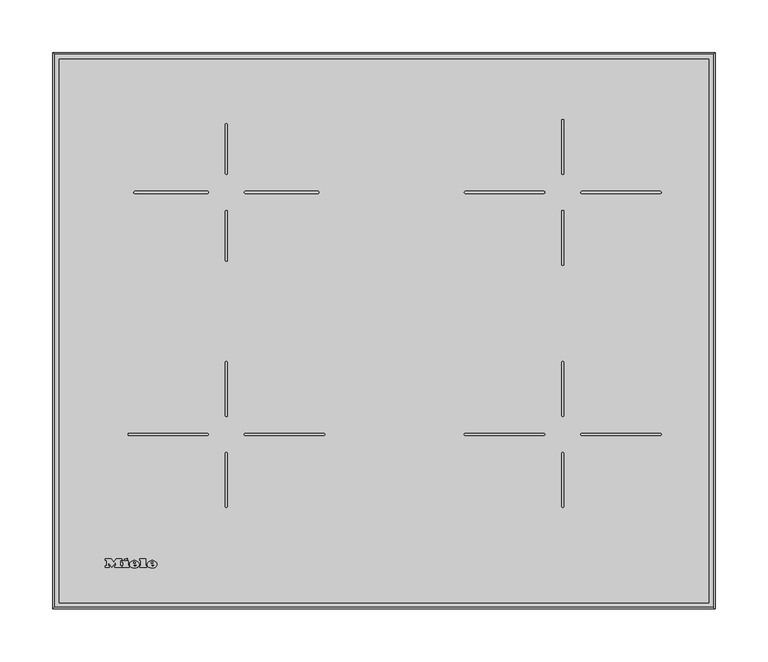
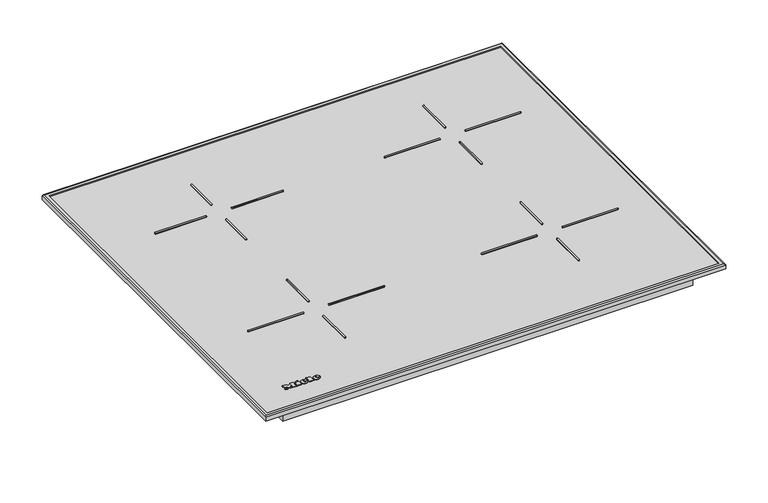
"""IFC4 building model written with IfcOpenShell, lengths in millimetres: proxy geometry, 12337590_D_KM7061FR : 26706110_D_12337590_KM7061FR."""

from ifc_helpers import new_model, si_unit, point, frame, frame_2d, origin, origin_with_axes, place, context, project, spatial, polyline, circle_curve, ellipse_curve, trimmed, segment, composite_curve, outline, extrude, source, transform, mapped, element, save
from ifc_brep_helpers import plane_surface, cylinder_surface, revolved_surface, extruded_surface, advanced_brep


def specialty_equipment_a7064428(model_context):
    return source(origin(), model_context, "Body", "SolidModel", [
        advanced_brep(
        [(-219.911984, 41.066, 5.0000007), (-219.911984, 41.874, 5.0000007), (-214.559984, 41.874, 5.0000007), (-223.871984, 41.874, 5.0000007), (-221.671984, 39.17, 5.0000007), (-214.695984, 41.066, 5.0000007), (-217.111984, 41.066, 5.0000007), (-219.015984, 40.17, 5.0000007), (-219.911984, 42.898, 5.0000007), (-219.911984, 43.77, 5.0000007), (-218.543984, 43.77, 5.0000007), (-218.543984, 42.898, 5.0000007), (-219.911984, 41.066, 4.0000007), (-219.015984, 40.17, 4.0000007), (-217.111984, 41.066, 4.0000007), (-214.695984, 41.066, 4.0000007), (-221.671984, 39.17, 4.0000007), (-223.871984, 41.874, 4.0000007), (-214.559984, 41.874, 4.0000007), (-219.911984, 41.874, 4.0000007), (-219.911984, 42.898, 4.0000007), (-218.543984, 42.898, 4.0000007), (-218.543984, 43.77, 4.0000007), (-219.911984, 43.77, 4.0000007)],
        [
            (0, 1),
            (1, 2),
            (2, 3, ellipse_curve(frame((-219.215984, 41.874, 5.0000007), z_axis=(0.0, 0.0, 1.0), x_axis=(-1.0, 0.0, 0.0)), 4.656, 3.848)),
            (3, 4, circle_curve(frame((-220.7759404, 42.146, 5.0000007), z_axis=(0.0, 0.0, 1.0), x_axis=(0.0, -1.0, 0.0)), 3.1079688)),
            (4, 5, circle_curve(frame((-219.3091904, 44.258, 5.0000007), z_axis=(0.0, 0.0, 1.0), x_axis=(0.0, -1.0, 0.0)), 5.6098607)),
            (5, 6),
            (6, 7, circle_curve(frame((-218.6249252, 41.81, 5.0000007), z_axis=(0.0, 0.0, -1.0), x_axis=(0.0, -1.0, 0.0)), 1.6859795)),
            (7, 0, circle_curve(frame((-219.015984, 41.066, 5.0000007), z_axis=(0.0, 0.0, -1.0), x_axis=(0.0, -1.0, 0.0)), 0.896)),
            (8, 9),
            (9, 10, circle_curve(frame((-219.227984, 43.77, 5.0000007), z_axis=(0.0, 0.0, -1.0), x_axis=(0.0, -1.0, 0.0)), 0.684)),
            (10, 11),
            (11, 8),
            (12, 13, circle_curve(frame((-219.015984, 41.066, 4.0000007), z_axis=(0.0, 0.0, 1.0), x_axis=(0.0, -1.0, 0.0)), 0.896)),
            (13, 14, circle_curve(frame((-218.6249252, 41.81, 4.0000007), z_axis=(0.0, 0.0, 1.0), x_axis=(0.0, -1.0, 0.0)), 1.6859795)),
            (14, 15),
            (15, 16, circle_curve(frame((-219.3091904, 44.258, 4.0000007), z_axis=(0.0, 0.0, -1.0), x_axis=(0.0, -1.0, 0.0)), 5.6098607)),
            (16, 17, circle_curve(frame((-220.7759404, 42.146, 4.0000007), z_axis=(0.0, 0.0, -1.0), x_axis=(0.0, -1.0, 0.0)), 3.1079688)),
            (17, 18, ellipse_curve(frame((-219.215984, 41.874, 4.0000007), z_axis=(0.0, 0.0, -1.0), x_axis=(-1.0, 0.0, 0.0)), 4.656, 3.848)),
            (18, 19),
            (19, 12),
            (20, 21),
            (21, 22),
            (22, 23, circle_curve(frame((-219.227984, 43.77, 4.0000007), z_axis=(0.0, 0.0, 1.0), x_axis=(0.0, -1.0, 0.0)), 0.684)),
            (23, 20),
            (0, 12),
            (19, 1),
            (18, 2),
            (5, 15),
            (14, 6),
            (17, 3),
            (13, 7),
            (16, 4),
            (8, 20),
            (23, 9),
            (22, 10),
            (21, 11),
        ],
        [
            plane_surface(frame((-219.911984, 41.874, 5.0000007), z_axis=(0.0, 0.0, 1.0), x_axis=(0.0, 1.0, 0.0))),
            plane_surface(frame((-219.911984, 41.874, 4.0000007), z_axis=(0.0, 0.0, -1.0), x_axis=(0.0, -1.0, 0.0))),
            plane_surface(frame((-219.911984, 41.066, 5.0000007), z_axis=(1.0, 0.0, 0.0), x_axis=(0.0, 0.0, -1.0))),
            plane_surface(frame((-219.911984, 41.874, 5.0000007), z_axis=(0.0, -1.0, 0.0), x_axis=(0.0, 0.0, -1.0))),
            plane_surface(frame((-214.695984, 41.066, 5.0000007), z_axis=(0.0, 1.0, 0.0), x_axis=(0.0, 0.0, -1.0))),
            extruded_surface(trimmed(ellipse_curve(frame((-219.215984, 41.874, 3.0000007), z_axis=(0.0, 0.0, 1.0), x_axis=(-1.0, 0.0, 0.0)), 4.656, 3.848), [point((-214.559984, 41.874, 3.0000007))], [point((-223.871984, 41.874, 3.0000007))], True, "CARTESIAN"), (0.0, 0.0, 1.0), 1.0),
            revolved_surface(polyline([(-218.6249252, 40.1240205, 4.0000007), (-218.6249252, 40.1240205, 5.0000007)]), (-218.6249252, 41.81, 4.0000007), (0.0, 0.0, -1.0)),
            revolved_surface(polyline([(-219.015984, 40.17, 4.0000007), (-219.015984, 40.17, 5.0000007)]), (-219.015984, 41.066, 4.0000007), (0.0, 0.0, -1.0)),
            cylinder_surface(frame((-220.7759404, 42.146, 4.0000007), z_axis=(0.0, 0.0, 1.0), x_axis=(0.0, -1.0, 0.0)), 3.1079688),
            cylinder_surface(frame((-219.3091904, 44.258, 4.0000007), z_axis=(0.0, 0.0, 1.0), x_axis=(0.0, -1.0, 0.0)), 5.6098607),
            plane_surface(frame((-219.911984, 42.898, 5.0000007), z_axis=(1.0, 0.0, 0.0), x_axis=(0.0, 0.0, -1.0))),
            revolved_surface(polyline([(-219.227984, 43.086000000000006, 4.0000007), (-219.227984, 43.086000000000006, 5.0000007)]), (-219.227984, 43.77, 4.0000007), (0.0, 0.0, -1.0)),
            plane_surface(frame((-218.543984, 43.77, 5.0000007), z_axis=(-1.0, 0.0, 0.0), x_axis=(0.0, 0.0, -1.0))),
            plane_surface(frame((-218.543984, 42.898, 5.0000007), z_axis=(0.0, 1.0, 0.0), x_axis=(0.0, 0.0, -1.0))),
        ],
        [
            (0, [[1, 2, 3, 4, 5, 6, 7, 8], [9, 10, 11, 12]]),
            (1, [[13, 14, 15, 16, 17, 18, 19, 20], [21, 22, 23, 24]]),
            (2, [[-1, 25, -20, 26]]),
            (3, [[-2, -26, -19, 27]]),
            (4, [[-6, 28, -15, 29]]),
            (5, [[-3, -27, -18, 30]]),
            (6, [[-7, -29, -14, 31]]),
            (7, [[-8, -31, -13, -25]]),
            (8, [[-4, -30, -17, 32]]),
            (9, [[-5, -32, -16, -28]]),
            (10, [[-9, 33, -24, 34]]),
            (11, [[-10, -34, -23, 35]]),
            (12, [[-11, -35, -22, 36]]),
            (13, [[-12, -36, -21, -33]]),
        ],
    ),
        advanced_brep(
        [(-236.607984, 41.066, 5.0000007), (-236.607984, 41.874, 5.0000007), (-231.255984, 41.874, 5.0000007), (-240.567984, 41.874, 5.0000007), (-238.367984, 39.17, 5.0000007), (-231.391984, 41.066, 5.0000007), (-233.807984, 41.066, 5.0000007), (-235.711984, 40.17, 5.0000007), (-236.607984, 42.898, 5.0000007), (-236.607984, 43.77, 5.0000007), (-235.239984, 43.77, 5.0000007), (-235.239984, 42.898, 5.0000007), (-236.607984, 41.066, 4.0000007), (-235.711984, 40.17, 4.0000007), (-233.807984, 41.066, 4.0000007), (-231.391984, 41.066, 4.0000007), (-238.367984, 39.17, 4.0000007), (-240.567984, 41.874, 4.0000007), (-231.255984, 41.874, 4.0000007), (-236.607984, 41.874, 4.0000007), (-236.607984, 42.898, 4.0000007), (-235.239984, 42.898, 4.0000007), (-235.239984, 43.77, 4.0000007), (-236.607984, 43.77, 4.0000007)],
        [
            (0, 1),
            (1, 2),
            (2, 3, ellipse_curve(frame((-235.911984, 41.874, 5.0000007), z_axis=(0.0, 0.0, 1.0), x_axis=(-1.0, 0.0, 0.0)), 4.656, 3.848)),
            (3, 4, circle_curve(frame((-237.4719404, 42.146, 5.0000007), z_axis=(0.0, 0.0, 1.0), x_axis=(0.0, -1.0, 0.0)), 3.1079688)),
            (4, 5, circle_curve(frame((-236.0051904, 44.258, 5.0000007), z_axis=(0.0, 0.0, 1.0), x_axis=(0.0, -1.0, 0.0)), 5.6098607)),
            (5, 6),
            (6, 7, circle_curve(frame((-235.3209252, 41.81, 5.0000007), z_axis=(0.0, 0.0, -1.0), x_axis=(0.0, -1.0, 0.0)), 1.6859795)),
            (7, 0, circle_curve(frame((-235.711984, 41.066, 5.0000007), z_axis=(0.0, 0.0, -1.0), x_axis=(0.0, -1.0, 0.0)), 0.896)),
            (8, 9),
            (9, 10, circle_curve(frame((-235.923984, 43.77, 5.0000007), z_axis=(0.0, 0.0, -1.0), x_axis=(0.0, -1.0, 0.0)), 0.684)),
            (10, 11),
            (11, 8),
            (12, 13, circle_curve(frame((-235.711984, 41.066, 4.0000007), z_axis=(0.0, 0.0, 1.0), x_axis=(0.0, -1.0, 0.0)), 0.896)),
            (13, 14, circle_curve(frame((-235.3209252, 41.81, 4.0000007), z_axis=(0.0, 0.0, 1.0), x_axis=(0.0, -1.0, 0.0)), 1.6859795)),
            (14, 15),
            (15, 16, circle_curve(frame((-236.0051904, 44.258, 4.0000007), z_axis=(0.0, 0.0, -1.0), x_axis=(0.0, -1.0, 0.0)), 5.6098607)),
            (16, 17, circle_curve(frame((-237.4719404, 42.146, 4.0000007), z_axis=(0.0, 0.0, -1.0), x_axis=(0.0, -1.0, 0.0)), 3.1079688)),
            (17, 18, ellipse_curve(frame((-235.911984, 41.874, 4.0000007), z_axis=(0.0, 0.0, -1.0), x_axis=(-1.0, 0.0, 0.0)), 4.656, 3.848)),
            (18, 19),
            (19, 12),
            (20, 21),
            (21, 22),
            (22, 23, circle_curve(frame((-235.923984, 43.77, 4.0000007), z_axis=(0.0, 0.0, 1.0), x_axis=(0.0, -1.0, 0.0)), 0.684)),
            (23, 20),
            (0, 12),
            (19, 1),
            (18, 2),
            (5, 15),
            (14, 6),
            (17, 3),
            (13, 7),
            (16, 4),
            (8, 20),
            (23, 9),
            (22, 10),
            (21, 11),
        ],
        [
            plane_surface(frame((-236.607984, 41.874, 5.0000007), z_axis=(0.0, 0.0, 1.0), x_axis=(0.0, 1.0, 0.0))),
            plane_surface(frame((-236.607984, 41.874, 4.0000007), z_axis=(0.0, 0.0, -1.0), x_axis=(0.0, -1.0, 0.0))),
            plane_surface(frame((-236.607984, 41.066, 5.0000007), z_axis=(1.0, 0.0, 0.0), x_axis=(0.0, 0.0, -1.0))),
            plane_surface(frame((-236.607984, 41.874, 5.0000007), z_axis=(0.0, -1.0, 0.0), x_axis=(0.0, 0.0, -1.0))),
            plane_surface(frame((-231.391984, 41.066, 5.0000007), z_axis=(0.0, 1.0, 0.0), x_axis=(0.0, 0.0, -1.0))),
            extruded_surface(trimmed(ellipse_curve(frame((-235.911984, 41.874, 3.0000007), z_axis=(0.0, 0.0, 1.0), x_axis=(-1.0, 0.0, 0.0)), 4.656, 3.848), [point((-231.255984, 41.874, 3.0000007))], [point((-240.567984, 41.874, 3.0000007))], True, "CARTESIAN"), (0.0, 0.0, 1.0), 1.0),
            revolved_surface(polyline([(-235.3209252, 40.1240205, 4.0000007), (-235.3209252, 40.1240205, 5.0000007)]), (-235.3209252, 41.81, 4.0000007), (0.0, 0.0, -1.0)),
            revolved_surface(polyline([(-235.711984, 40.17, 4.0000007), (-235.711984, 40.17, 5.0000007)]), (-235.711984, 41.066, 4.0000007), (0.0, 0.0, -1.0)),
            cylinder_surface(frame((-237.4719404, 42.146, 4.0000007), z_axis=(0.0, 0.0, 1.0), x_axis=(0.0, -1.0, 0.0)), 3.1079688),
            cylinder_surface(frame((-236.0051904, 44.258, 4.0000007), z_axis=(0.0, 0.0, 1.0), x_axis=(0.0, -1.0, 0.0)), 5.6098607),
            plane_surface(frame((-236.607984, 42.898, 5.0000007), z_axis=(1.0, 0.0, 0.0), x_axis=(0.0, 0.0, -1.0))),
            revolved_surface(polyline([(-235.923984, 43.086000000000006, 4.0000007), (-235.923984, 43.086000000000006, 5.0000007)]), (-235.923984, 43.77, 4.0000007), (0.0, 0.0, -1.0)),
            plane_surface(frame((-235.239984, 43.77, 5.0000007), z_axis=(-1.0, 0.0, 0.0), x_axis=(0.0, 0.0, -1.0))),
            plane_surface(frame((-235.239984, 42.898, 5.0000007), z_axis=(0.0, 1.0, 0.0), x_axis=(0.0, 0.0, -1.0))),
        ],
        [
            (0, [[1, 2, 3, 4, 5, 6, 7, 8], [9, 10, 11, 12]]),
            (1, [[13, 14, 15, 16, 17, 18, 19, 20], [21, 22, 23, 24]]),
            (2, [[-1, 25, -20, 26]]),
            (3, [[-2, -26, -19, 27]]),
            (4, [[-6, 28, -15, 29]]),
            (5, [[-3, -27, -18, 30]]),
            (6, [[-7, -29, -14, 31]]),
            (7, [[-8, -31, -13, -25]]),
            (8, [[-4, -30, -17, 32]]),
            (9, [[-5, -32, -16, -28]]),
            (10, [[-9, 33, -24, 34]]),
            (11, [[-10, -34, -23, 35]]),
            (12, [[-11, -35, -22, 36]]),
            (13, [[-12, -36, -21, -33]]),
        ],
    ),
        extrude(outline(polyline([(-245.351984, 46.698), (-242.631984, 47.962), (-242.031984, 46.666), (-244.743984, 45.402), (-245.351984, 46.698)])), frame((0.0, 0.0, 4.0000007), z_axis=(0.0, 0.0, 1.0), x_axis=(1.0, 0.0, 0.0)), (0.0, 0.0, 1.0), 1.0),
        extrude(outline(polyline([(-247.327984, 45.226), (-241.943984, 45.226), (-241.943984, 40.514), (-241.015984, 40.514), (-241.015984, 39.17), (-247.327984, 39.17), (-247.327984, 40.514), (-246.375984, 40.514), (-246.375984, 43.794), (-247.327984, 43.794), (-247.327984, 45.226)])), frame((0.0, 0.0, 4.0000007), z_axis=(0.0, 0.0, 1.0), x_axis=(1.0, 0.0, 0.0)), (0.0, 0.0, 1.0), 1.0),
        extrude(outline(polyline([(-230.807984, 45.866), (-230.807984, 47.17), (-225.303984, 47.17), (-225.303984, 40.514), (-224.319984, 40.514), (-224.319984, 39.17), (-230.807984, 39.17), (-230.807984, 40.514), (-229.847984, 40.514), (-229.847984, 45.866), (-230.807984, 45.866)])), frame((0.0, 0.0, 4.0000007), z_axis=(0.0, 0.0, 1.0), x_axis=(1.0, 0.0, 0.0)), (0.0, 0.0, 1.0), 1.0),
        extrude(outline(polyline([(-263.271984, 45.866), (-263.271984, 47.17), (-257.695984, 47.17), (-255.351984, 44.17), (-253.015984, 47.17), (-248.143984, 47.17), (-248.143984, 45.866), (-249.159984, 45.866), (-249.159984, 40.514), (-248.143984, 40.514), (-248.143984, 39.17), (-254.527984, 39.17), (-254.527984, 40.514), (-253.543984, 40.514), (-253.543984, 43.9852223), (-257.135984, 39.17), (-260.711984, 43.9171247), (-260.711984, 40.514), (-259.751984, 40.514), (-259.751984, 39.17), (-263.271984, 39.17), (-263.271984, 40.514), (-262.303984, 40.514), (-262.303984, 45.866), (-263.271984, 45.866)])), frame((0.0, 0.0, 4.0000007), z_axis=(0.0, 0.0, 1.0), x_axis=(1.0, 0.0, 0.0)), (0.0, 0.0, 1.0), 1.0),
        extrude(outline(composite_curve([segment(trimmed(circle_curve(frame_2d((261.0, 394.0)), 1.0), [point((261.0, 395.0))], [point((261.0, 393.0))], False, "CARTESIAN"), True, "CONTINUOUS"), segment(polyline([(261.0, 393.0), (187.0, 393.0)]), True, "CONTINUOUS"), segment(trimmed(circle_curve(frame_2d((187.0, 394.0)), 1.0), [point((187.0, 393.0))], [point((187.0, 395.0))], False, "CARTESIAN"), True, "CONTINUOUS"), segment(polyline([(187.0, 395.0), (261.0, 395.0)]), True, "CONTINUOUS")], self_intersect=False)), frame((0.0, 0.0, 4.0000007), z_axis=(0.0, 0.0, 1.0), x_axis=(1.0, 0.0, 0.0)), (0.0, 0.0, 1.0), 1.0),
        extrude(outline(composite_curve([segment(polyline([(77.0, 395.0), (151.0, 395.0)]), True, "CONTINUOUS"), segment(trimmed(circle_curve(frame_2d((151.0, 394.0)), 1.0), [point((151.0, 395.0))], [point((151.0, 393.0))], False, "CARTESIAN"), True, "CONTINUOUS"), segment(polyline([(151.0, 393.0), (77.0, 393.0)]), True, "CONTINUOUS"), segment(trimmed(circle_curve(frame_2d((77.0, 394.0)), 1.0), [point((77.0, 393.0))], [point((77.0, 395.0))], False, "CARTESIAN"), True, "CONTINUOUS")], self_intersect=False)), frame((0.0, 0.0, 4.0000007), z_axis=(0.0, 0.0, 1.0), x_axis=(1.0, 0.0, 0.0)), (0.0, 0.0, 1.0), 1.0),
        extrude(outline(composite_curve([segment(trimmed(circle_curve(frame_2d((169.0, 462.0)), 1.0), [point((168.0, 462.0))], [point((170.0, 462.0))], False, "CARTESIAN"), True, "CONTINUOUS"), segment(polyline([(170.0, 462.0), (170.0, 412.0)]), True, "CONTINUOUS"), segment(trimmed(circle_curve(frame_2d((169.0, 412.0)), 1.0), [point((170.0, 412.0))], [point((168.0, 412.0))], False, "CARTESIAN"), True, "CONTINUOUS"), segment(polyline([(168.0, 412.0), (168.0, 462.0)]), True, "CONTINUOUS")], self_intersect=False)), frame((0.0, 0.0, 4.0000007), z_axis=(0.0, 0.0, 1.0), x_axis=(1.0, 0.0, 0.0)), (0.0, 0.0, 1.0), 1.0),
        extrude(outline(composite_curve([segment(polyline([(168.0, 326.0), (168.0, 376.0)]), True, "CONTINUOUS"), segment(trimmed(circle_curve(frame_2d((169.0, 376.0)), 1.0), [point((168.0, 376.0))], [point((170.0, 376.0))], False, "CARTESIAN"), True, "CONTINUOUS"), segment(polyline([(170.0, 376.0), (170.0, 326.0)]), True, "CONTINUOUS"), segment(trimmed(circle_curve(frame_2d((169.0, 326.0)), 1.0), [point((170.0, 326.0))], [point((168.0, 326.0))], False, "CARTESIAN"), True, "CONTINUOUS")], self_intersect=False)), frame((0.0, 0.0, 4.0000007), z_axis=(0.0, 0.0, 1.0), x_axis=(1.0, 0.0, 0.0)), (0.0, 0.0, 1.0), 1.0),
        extrude(outline(composite_curve([segment(trimmed(circle_curve(frame_2d((-62.5, 394.0)), 1.0), [point((-62.5, 395.0))], [point((-62.5, 393.0))], False, "CARTESIAN"), True, "CONTINUOUS"), segment(polyline([(-62.5, 393.0), (-131.0, 393.0)]), True, "CONTINUOUS"), segment(trimmed(circle_curve(frame_2d((-131.0, 394.0)), 1.0), [point((-131.0, 393.0))], [point((-131.0, 395.0))], False, "CARTESIAN"), True, "CONTINUOUS"), segment(polyline([(-131.0, 395.0), (-62.5, 395.0)]), True, "CONTINUOUS")], self_intersect=False)), frame((0.0, 0.0, 4.0000007), z_axis=(0.0, 0.0, 1.0), x_axis=(1.0, 0.0, 0.0)), (0.0, 0.0, 1.0), 1.0),
        extrude(outline(composite_curve([segment(polyline([(-148.0, 458.0), (-148.0, 412.0)]), True, "CONTINUOUS"), segment(trimmed(circle_curve(frame_2d((-149.0, 412.0)), 1.0), [point((-148.0, 412.0))], [point((-150.0, 412.0))], False, "CARTESIAN"), True, "CONTINUOUS"), segment(polyline([(-150.0, 412.0), (-150.0, 458.0)]), True, "CONTINUOUS"), segment(trimmed(circle_curve(frame_2d((-149.0, 458.0)), 1.0), [point((-150.0, 458.0))], [point((-148.0, 458.0))], False, "CARTESIAN"), True, "CONTINUOUS")], self_intersect=False)), frame((0.0, 0.0, 4.0000007), z_axis=(0.0, 0.0, 1.0), x_axis=(1.0, 0.0, 0.0)), (0.0, 0.0, 1.0), 1.0),
        extrude(outline(composite_curve([segment(polyline([(261.0, 164.0), (187.0, 164.0)]), True, "CONTINUOUS"), segment(trimmed(circle_curve(frame_2d((187.0, 165.0)), 1.0), [point((187.0, 164.0))], [point((187.0, 166.0))], False, "CARTESIAN"), True, "CONTINUOUS"), segment(polyline([(187.0, 166.0), (261.0, 166.0)]), True, "CONTINUOUS"), segment(trimmed(circle_curve(frame_2d((261.0, 165.0)), 1.0), [point((261.0, 166.0))], [point((261.0, 164.0))], False, "CARTESIAN"), True, "CONTINUOUS")], self_intersect=False)), frame((0.0, 0.0, 4.0000007), z_axis=(0.0, 0.0, 1.0), x_axis=(1.0, 0.0, 0.0)), (0.0, 0.0, 1.0), 1.0),
        extrude(outline(composite_curve([segment(trimmed(circle_curve(frame_2d((77.0, 165.0)), 1.0), [point((77.0, 164.0))], [point((77.0, 166.0))], False, "CARTESIAN"), True, "CONTINUOUS"), segment(polyline([(77.0, 166.0), (151.0, 166.0)]), True, "CONTINUOUS"), segment(trimmed(circle_curve(frame_2d((151.0, 165.0)), 1.0), [point((151.0, 166.0))], [point((151.0, 164.0))], False, "CARTESIAN"), True, "CONTINUOUS"), segment(polyline([(151.0, 164.0), (77.0, 164.0)]), True, "CONTINUOUS")], self_intersect=False)), frame((0.0, 0.0, 4.0000007), z_axis=(0.0, 0.0, 1.0), x_axis=(1.0, 0.0, 0.0)), (0.0, 0.0, 1.0), 1.0),
        extrude(outline(composite_curve([segment(polyline([(168.0, 97.0), (168.0, 147.0)]), True, "CONTINUOUS"), segment(trimmed(circle_curve(frame_2d((169.0, 147.0)), 1.0), [point((168.0, 147.0))], [point((170.0, 147.0))], False, "CARTESIAN"), True, "CONTINUOUS"), segment(polyline([(170.0, 147.0), (170.0, 97.0)]), True, "CONTINUOUS"), segment(trimmed(circle_curve(frame_2d((169.0, 97.0)), 1.0), [point((170.0, 97.0))], [point((168.0, 97.0))], False, "CARTESIAN"), True, "CONTINUOUS")], self_intersect=False)), frame((0.0, 0.0, 4.0000007), z_axis=(0.0, 0.0, 1.0), x_axis=(1.0, 0.0, 0.0)), (0.0, 0.0, 1.0), 1.0),
        extrude(outline(composite_curve([segment(trimmed(circle_curve(frame_2d((169.0, 233.0)), 1.0), [point((168.0, 233.0))], [point((170.0, 233.0))], False, "CARTESIAN"), True, "CONTINUOUS"), segment(polyline([(170.0, 233.0), (170.0, 183.0)]), True, "CONTINUOUS"), segment(trimmed(circle_curve(frame_2d((169.0, 183.0)), 1.0), [point((170.0, 183.0))], [point((168.0, 183.0))], False, "CARTESIAN"), True, "CONTINUOUS"), segment(polyline([(168.0, 183.0), (168.0, 233.0)]), True, "CONTINUOUS")], self_intersect=False)), frame((0.0, 0.0, 4.0000007), z_axis=(0.0, 0.0, 1.0), x_axis=(1.0, 0.0, 0.0)), (0.0, 0.0, 1.0), 1.0),
        extrude(outline(composite_curve([segment(trimmed(circle_curve(frame_2d((-241.0, 165.0)), 1.0), [point((-241.0, 164.0))], [point((-241.0, 166.0))], False, "CARTESIAN"), True, "CONTINUOUS"), segment(polyline([(-241.0, 166.0), (-167.0, 166.0)]), True, "CONTINUOUS"), segment(trimmed(circle_curve(frame_2d((-167.0, 165.0)), 1.0), [point((-167.0, 166.0))], [point((-167.0, 164.0))], False, "CARTESIAN"), True, "CONTINUOUS"), segment(polyline([(-167.0, 164.0), (-241.0, 164.0)]), True, "CONTINUOUS")], self_intersect=False)), frame((0.0, 0.0, 4.0000007), z_axis=(0.0, 0.0, 1.0), x_axis=(1.0, 0.0, 0.0)), (0.0, 0.0, 1.0), 1.0),
        extrude(outline(composite_curve([segment(polyline([(-57.0, 164.0), (-131.0, 164.0)]), True, "CONTINUOUS"), segment(trimmed(circle_curve(frame_2d((-131.0, 165.0)), 1.0), [point((-131.0, 164.0))], [point((-131.0, 166.0))], False, "CARTESIAN"), True, "CONTINUOUS"), segment(polyline([(-131.0, 166.0), (-57.0, 166.0)]), True, "CONTINUOUS"), segment(trimmed(circle_curve(frame_2d((-57.0, 165.0)), 1.0), [point((-57.0, 166.0))], [point((-57.0, 164.0))], False, "CARTESIAN"), True, "CONTINUOUS")], self_intersect=False)), frame((0.0, 0.0, 4.0000007), z_axis=(0.0, 0.0, 1.0), x_axis=(1.0, 0.0, 0.0)), (0.0, 0.0, 1.0), 1.0),
        extrude(outline(composite_curve([segment(trimmed(circle_curve(frame_2d((-149.0, 97.0)), 1.0), [point((-148.0, 97.0))], [point((-150.0, 97.0))], False, "CARTESIAN"), True, "CONTINUOUS"), segment(polyline([(-150.0, 97.0), (-150.0, 147.0)]), True, "CONTINUOUS"), segment(trimmed(circle_curve(frame_2d((-149.0, 147.0)), 1.0), [point((-150.0, 147.0))], [point((-148.0, 147.0))], False, "CARTESIAN"), True, "CONTINUOUS"), segment(polyline([(-148.0, 147.0), (-148.0, 97.0)]), True, "CONTINUOUS")], self_intersect=False)), frame((0.0, 0.0, 4.0000007), z_axis=(0.0, 0.0, 1.0), x_axis=(1.0, 0.0, 0.0)), (0.0, 0.0, 1.0), 1.0),
        extrude(outline(composite_curve([segment(polyline([(-148.0, 233.0), (-148.0, 183.0)]), True, "CONTINUOUS"), segment(trimmed(circle_curve(frame_2d((-149.0, 183.0)), 1.0), [point((-148.0, 183.0))], [point((-150.0, 183.0))], False, "CARTESIAN"), True, "CONTINUOUS"), segment(polyline([(-150.0, 183.0), (-150.0, 233.0)]), True, "CONTINUOUS"), segment(trimmed(circle_curve(frame_2d((-149.0, 233.0)), 1.0), [point((-150.0, 233.0))], [point((-148.0, 233.0))], False, "CARTESIAN"), True, "CONTINUOUS")], self_intersect=False)), frame((0.0, 0.0, 4.0000007), z_axis=(0.0, 0.0, 1.0), x_axis=(1.0, 0.0, 0.0)), (0.0, 0.0, 1.0), 1.0),
        extrude(outline(composite_curve([segment(trimmed(circle_curve(frame_2d((-149.0, 330.0)), 1.0), [point((-148.0, 330.0))], [point((-150.0, 330.0))], False, "CARTESIAN"), True, "CONTINUOUS"), segment(polyline([(-150.0, 330.0), (-150.0, 376.0)]), True, "CONTINUOUS"), segment(trimmed(circle_curve(frame_2d((-149.0, 376.0)), 1.0), [point((-150.0, 376.0))], [point((-148.0, 376.0))], False, "CARTESIAN"), True, "CONTINUOUS"), segment(polyline([(-148.0, 376.0), (-148.0, 330.0)]), True, "CONTINUOUS")], self_intersect=False)), frame((0.0, 0.0, 4.0000007), z_axis=(0.0, 0.0, 1.0), x_axis=(1.0, 0.0, 0.0)), (0.0, 0.0, 1.0), 1.0),
        extrude(outline(composite_curve([segment(polyline([(-235.5, 395.0), (-167.0, 395.0)]), True, "CONTINUOUS"), segment(trimmed(circle_curve(frame_2d((-167.0, 394.0)), 1.0), [point((-167.0, 395.0))], [point((-167.0, 393.0))], False, "CARTESIAN"), True, "CONTINUOUS"), segment(polyline([(-167.0, 393.0), (-235.5, 393.0)]), True, "CONTINUOUS"), segment(trimmed(circle_curve(frame_2d((-235.5, 394.0)), 1.0), [point((-235.5, 393.0))], [point((-235.5, 395.0))], False, "CARTESIAN"), True, "CONTINUOUS")], self_intersect=False)), frame((0.0, 0.0, 4.0000007), z_axis=(0.0, 0.0, 1.0), x_axis=(1.0, 0.0, 0.0)), (0.0, 0.0, 1.0), 1.0),
        advanced_brep(
        [(313.0, 526.0, 0.0), (313.0, 526.0, 5.5271728), (313.0, 0.0, 5.5271728), (313.0, 0.0, 0.0), (311.5271728, 524.5271728, 5.8817013), (311.5271728, 524.5271728, 0.0), (311.5271728, 1.4728272, 0.0), (311.5271728, 1.4728272, 5.8817013), (307.2139587, 520.2139587, 7.0), (307.2139587, 520.2139587, 5.8817013), (307.2139587, 5.7860413, 5.8817013), (307.2139587, 5.7860413, 7.0), (311.5271728, 524.5271728, 7.0), (311.5271728, 1.4728272, 7.0), (-313.0, 0.0, 5.5271728), (-313.0, 0.0, 0.0), (-311.5271728, 1.4728272, 0.0), (-311.5271728, 1.4728272, 5.8817013), (-307.2139587, 5.7860413, 5.8817013), (-307.2139587, 5.7860413, 7.0), (-311.5271728, 1.4728272, 7.0), (-313.0, 526.0, 5.5271728), (-313.0, 526.0, 0.0), (-311.5271728, 524.5271728, 0.0), (-311.5271728, 524.5271728, 5.8817013), (-307.2139587, 520.2139587, 5.8817013), (-307.2139587, 520.2139587, 7.0), (-311.5271728, 524.5271728, 7.0)],
        [
            (0, 1),
            (1, 2),
            (2, 3),
            (3, 0),
            (4, 5),
            (5, 6),
            (6, 7),
            (7, 4),
            (8, 9),
            (9, 10),
            (10, 11),
            (11, 8),
            (1, 12, ellipse_curve(frame((311.5271728, 524.5271728, 5.5271728), z_axis=(0.7071067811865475, -0.7071067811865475, 0.0), x_axis=(0.7071067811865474, 0.7071067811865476, 0.0)), 2.0828921, 1.4728272)),
            (12, 13),
            (13, 2, ellipse_curve(frame((311.5271728, 1.4728272, 5.5271728), z_axis=(0.7071067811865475, 0.7071067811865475, 0.0), x_axis=(-0.7071067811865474, 0.7071067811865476, 0.0)), 2.0828921, 1.4728272)),
            (2, 14),
            (14, 15),
            (15, 3),
            (6, 16),
            (16, 17),
            (17, 7),
            (10, 18),
            (18, 19),
            (19, 11),
            (13, 20),
            (20, 14, ellipse_curve(frame((-311.5271728, 1.4728272, 5.5271728), z_axis=(0.7071067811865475, -0.7071067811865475, 0.0), x_axis=(0.7071067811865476, 0.7071067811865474, 0.0)), 2.0828921, 1.4728272)),
            (14, 21),
            (21, 22),
            (22, 15),
            (16, 23),
            (23, 24),
            (24, 17),
            (18, 25),
            (25, 26),
            (26, 19),
            (20, 27),
            (27, 21, ellipse_curve(frame((-311.5271728, 524.5271728, 5.5271728), z_axis=(-0.7071067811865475, -0.7071067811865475, 0.0), x_axis=(0.7071067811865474, -0.7071067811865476, 0.0)), 2.0828921, 1.4728272)),
            (21, 1),
            (0, 22),
            (5, 23),
            (4, 24),
            (9, 25),
            (8, 26),
            (12, 27),
        ],
        [
            plane_surface(frame((313.0, 526.0, 5.5271728), z_axis=(1.0, 0.0, 0.0), x_axis=(0.0, -1.0, 0.0))),
            plane_surface(frame((311.5271728, 524.5271728, 0.0), z_axis=(-1.0, 0.0, 0.0), x_axis=(0.0, -1.0, 0.0))),
            plane_surface(frame((307.2139587, 520.2139587, 5.8817013), z_axis=(-1.0, 0.0, 0.0), x_axis=(0.0, -1.0, 0.0))),
            cylinder_surface(frame((311.5271728, 526.0, 5.5271728), z_axis=(0.0, 1.0, 0.0), x_axis=(1.0, 0.0, 0.0)), 1.4728272),
            plane_surface(frame((313.0, 0.0, 5.5271728), z_axis=(0.0, -1.0, 0.0), x_axis=(-1.0, 0.0, 0.0))),
            plane_surface(frame((311.5271728, 1.4728272, 0.0), z_axis=(0.0, 1.0, 0.0), x_axis=(-1.0, 0.0, 0.0))),
            plane_surface(frame((307.2139587, 5.7860413, 5.8817013), z_axis=(0.0, 1.0, 0.0), x_axis=(-1.0, 0.0, 0.0))),
            cylinder_surface(frame((313.0, 1.4728272, 5.5271728), z_axis=(1.0, 0.0, 0.0), x_axis=(0.0, -1.0, 0.0)), 1.4728272),
            plane_surface(frame((-313.0, 0.0, 5.5271728), z_axis=(-1.0, 0.0, 0.0), x_axis=(0.0, 1.0, 0.0))),
            plane_surface(frame((-311.5271728, 1.4728272, 0.0), z_axis=(1.0, 0.0, 0.0), x_axis=(0.0, 1.0, 0.0))),
            plane_surface(frame((-307.2139587, 5.7860413, 5.8817013), z_axis=(1.0, 0.0, 0.0), x_axis=(0.0, 1.0, 0.0))),
            cylinder_surface(frame((-311.5271728, 0.0, 5.5271728), z_axis=(0.0, -1.0, 0.0), x_axis=(-1.0, 0.0, 0.0)), 1.4728272),
            plane_surface(frame((-313.0, 526.0, 5.5271728), z_axis=(0.0, 1.0, 0.0), x_axis=(1.0, 0.0, 0.0))),
            plane_surface(frame((-313.0, 526.0, 0.0), z_axis=(0.0, 0.0, -1.0), x_axis=(1.0, 0.0, 0.0))),
            plane_surface(frame((-311.5271728, 524.5271728, 0.0), z_axis=(0.0, -1.0, 0.0), x_axis=(1.0, 0.0, 0.0))),
            plane_surface(frame((-311.5271728, 524.5271728, 5.8817013), z_axis=(0.0, 0.0, -1.0), x_axis=(1.0, 0.0, 0.0))),
            plane_surface(frame((-307.2139587, 520.2139587, 5.8817013), z_axis=(0.0, -1.0, 0.0), x_axis=(1.0, 0.0, 0.0))),
            plane_surface(frame((-307.2139587, 520.2139587, 7.0), z_axis=(0.0, 0.0, 1.0), x_axis=(1.0, 0.0, 0.0))),
            cylinder_surface(frame((-313.0, 524.5271728, 5.5271728), z_axis=(-1.0, 0.0, 0.0), x_axis=(0.0, 1.0, 0.0)), 1.4728272),
        ],
        [
            (0, [[1, 2, 3, 4]]),
            (1, [[5, 6, 7, 8]]),
            (2, [[9, 10, 11, 12]]),
            (3, [[13, 14, 15, -2]]),
            (4, [[-3, 16, 17, 18]]),
            (5, [[-7, 19, 20, 21]]),
            (6, [[-11, 22, 23, 24]]),
            (7, [[-15, 25, 26, -16]]),
            (8, [[-17, 27, 28, 29]]),
            (9, [[-20, 30, 31, 32]]),
            (10, [[-23, 33, 34, 35]]),
            (11, [[-26, 36, 37, -27]]),
            (12, [[-28, 38, -1, 39]]),
            (13, [[-18, -29, -39, -4], [40, -30, -19, -6]]),
            (14, [[-31, -40, -5, 41]]),
            (15, [[-21, -32, -41, -8], [42, -33, -22, -10]]),
            (16, [[-34, -42, -9, 43]]),
            (17, [[44, -36, -25, -14], [-24, -35, -43, -12]]),
            (18, [[-37, -44, -13, -38]]),
        ],
    ),
        extrude(outline(polyline([(157.7938197, 483.0), (157.7938197, 365.7202614), (160.0, 365.7202614), (160.0, 79.0), (-134.0, 79.0), (-134.0, 483.0), (157.7938197, 483.0)])), frame((0.0, 0.0, -49.1723575), z_axis=(0.0, 0.0, 1.0), x_axis=(1.0, 0.0, 0.0)), (0.0, 0.0, 1.0), 26.1723575),
        extrude(outline(polyline([(279.0, 507.0), (279.0, 19.0), (-279.0, 19.0), (-279.0, 507.0), (279.0, 507.0)])), frame((0.0, 0.0, -23.0), z_axis=(0.0, 0.0, 1.0), x_axis=(1.0, 0.0, 0.0)), (0.0, 0.0, 1.0), 23.0),
        extrude(outline(polyline([(309.75, 523.0), (309.75, 3.0), (-309.75, 3.0), (-309.75, 523.0), (309.75, 523.0)])), origin_with_axes(), (0.0, 0.0, 1.0), 4.0000007),
        extrude(outline(polyline([(173.6227397, 386.1708126), (181.0, 386.1708126), (181.0, 384.9151088), (174.8784436, 384.9151088), (174.8784436, 381.6188861), (180.529111, 381.6188861), (180.529111, 380.3631822), (174.8784436, 380.3631822), (174.8784436, 377.3808855), (180.843037, 377.3808855), (180.843037, 376.1251816), (173.6227397, 376.1251816), (173.6227397, 386.1708126)])), frame((0.0, 0.0, -55.9814925), z_axis=(0.0, 0.0, 1.0), x_axis=(1.0, 0.0, 0.0)), (0.0, 0.0, 1.0), 1.0),
        extrude(outline(polyline([(182.8835558, 386.1708126), (189.1620752, 386.1708126), (189.1620752, 384.9151088), (184.1392597, 384.9151088), (184.1392597, 376.1251816), (182.8835558, 376.1251816), (182.8835558, 386.1708126)])), frame((0.0, 0.0, -55.9814925), z_axis=(0.0, 0.0, 1.0), x_axis=(1.0, 0.0, 0.0)), (0.0, 0.0, 1.0), 1.0),
        advanced_brep(
        [(158.0, 381.1708126, -42.9814925), (158.0, 381.1708126, -26.9814925), (172.7476293, 381.1708126, -42.9814925), (188.7476293, 381.1708126, -26.9814925), (172.7476293, 381.1708126, -54.9814925), (188.7476293, 381.1708126, -54.9814925)],
        [
            (0, 1, circle_curve(frame((158.0, 381.1708126, -34.9814925), z_axis=(-1.0, 0.0, 0.0), x_axis=(0.0, 0.0, 1.0)), 8.0)),
            (1, 0, circle_curve(frame((158.0, 381.1708126, -34.9814925), z_axis=(-1.0, 0.0, 0.0), x_axis=(0.0, 0.0, 1.0)), 8.0)),
            (0, 2),
            (2, 3, ellipse_curve(frame((180.7476293, 381.1708126, -34.9814925), z_axis=(-0.7071067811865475, 0.0, 0.7071067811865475), x_axis=(-0.7071067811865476, 0.0, -0.7071067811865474)), 11.3137085, 8.0)),
            (3, 1),
            (3, 2, ellipse_curve(frame((180.7476293, 381.1708126, -34.9814925), z_axis=(-0.7071067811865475, 0.0, 0.7071067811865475), x_axis=(-0.7071067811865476, 0.0, -0.7071067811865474)), 11.3137085, 8.0)),
            (4, 5, circle_curve(frame((180.7476293, 381.1708126, -54.9814925), z_axis=(0.0, 0.0, -1.0), x_axis=(1.0, 0.0, 0.0)), 8.0)),
            (5, 4, circle_curve(frame((180.7476293, 381.1708126, -54.9814925), z_axis=(0.0, 0.0, -1.0), x_axis=(1.0, 0.0, 0.0)), 8.0)),
            (2, 4),
            (5, 3),
        ],
        [
            plane_surface(frame((158.0, 0.0, -34.9814925), z_axis=(-1.0, 0.0, 0.0), x_axis=(0.0, -1.0, 0.0))),
            cylinder_surface(frame((158.0, 381.1708126, -34.9814925), z_axis=(-1.0, 0.0, 0.0), x_axis=(0.0, 0.0, 1.0)), 8.0),
            plane_surface(frame((180.7476293, 0.0, -54.9814925), z_axis=(0.0, 0.0, -1.0), x_axis=(0.0, -1.0, 0.0))),
            cylinder_surface(frame((180.7476293, 381.1708126, -34.9814925), z_axis=(0.0, 0.0, 1.0), x_axis=(1.0, 0.0, 0.0)), 8.0),
        ],
        [
            (0, [[1, 2]]),
            (1, [[-1, 3, 4, 5]]),
            (1, [[-2, -5, 6, -3]]),
            (2, [[7, 8]]),
            (3, [[-4, 9, -8, 10]]),
            (3, [[-6, -10, -7, -9]]),
        ],
    ),
    ])


if __name__ == "__main__":
    model = new_model("IFC4")
    model_context = context("Model", 3, world=origin())
    ifc_project = project(units=[si_unit("LENGTHUNIT", "METRE", prefix="MILLI")], contexts=[model_context])
    site = spatial("IfcSite", under=ifc_project)
    building = spatial("IfcBuilding", under=site)
    placement = place(None, origin())
    specialty_equipment_shape = specialty_equipment_a7064428(model_context)
    element("IfcBuildingElementProxy", 1, Name="12337590_D_KM7061FR : 26706110_D_12337590_KM7061FR", ObjectType="12337590_D_KM7061FR : 26706110_D_12337590_KM7061FR", at=placement, inside=building, context=model_context, shape_type="MappedRepresentation", body=[
        mapped(specialty_equipment_shape, transform((0.0, 0.0, 0.0), x_axis=(1.0, 0.0, 0.0), y_axis=(0.0, 1.0, 0.0), z_axis=(0.0, 0.0, 1.0))),
    ])
    save(model, "model.ifc")
